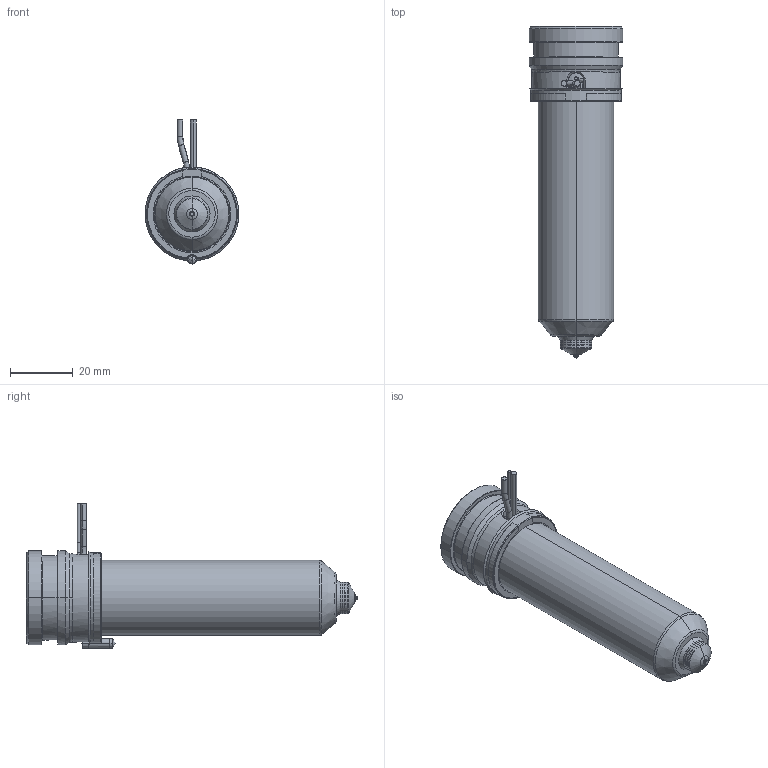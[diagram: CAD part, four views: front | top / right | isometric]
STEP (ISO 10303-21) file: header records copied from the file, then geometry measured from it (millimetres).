
FILE_DESCRIPTION((''),'2;1');
FILE_NAME('MPN-10-29-VSA10-086-A','2026-02-05T12:44:23',('UPTIO'),('Thermoplay S.p.A.'),'CREO PARAMETRIC BY PTC INC, 2023494','CREO PARAMETRIC BY PTC INC, 2023494','');
FILE_SCHEMA(('CONFIG_CONTROL_DESIGN','SHAPE_APPEARANCE_LAYERS_GROUPS'));
Length unit declared in the file: millimetre
Products named in the file (1): MPN-10-29-VSA10-086-A
Bounding box: 30 x 106 x 46 mm (x, y, z)
Volume: 33955.3 mm3; surface area: 33762.1 mm2
Topology: 2 solids, 3 shells, 556 faces, 1451 edges, 894 vertices
Faces by surface type: cylinder 184, plane 142, bspline 77, torus 70, cone 70, sphere 9, extrusion 4
Entity records: 28707 total; most frequent: CARTESIAN_POINT 12293, ORIENTED_EDGE 2890, DIRECTION 2691, EDGE_CURVE 1445, AXIS2_PLACEMENT_3D 1066, VERTEX_POINT 894, CIRCLE 590, EDGE_LOOP 585
